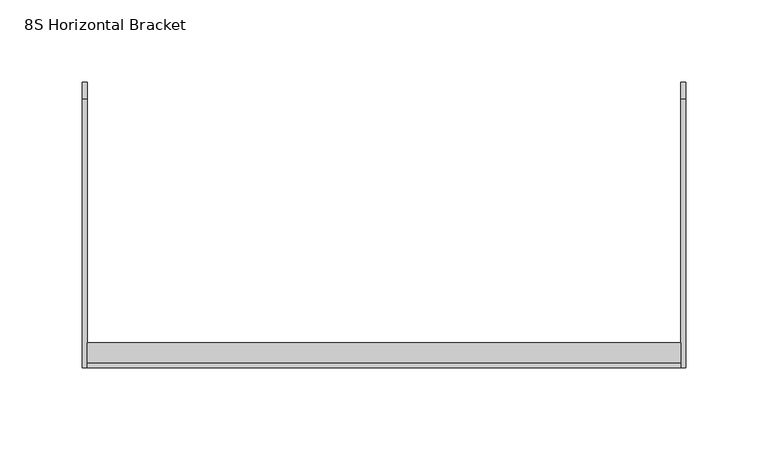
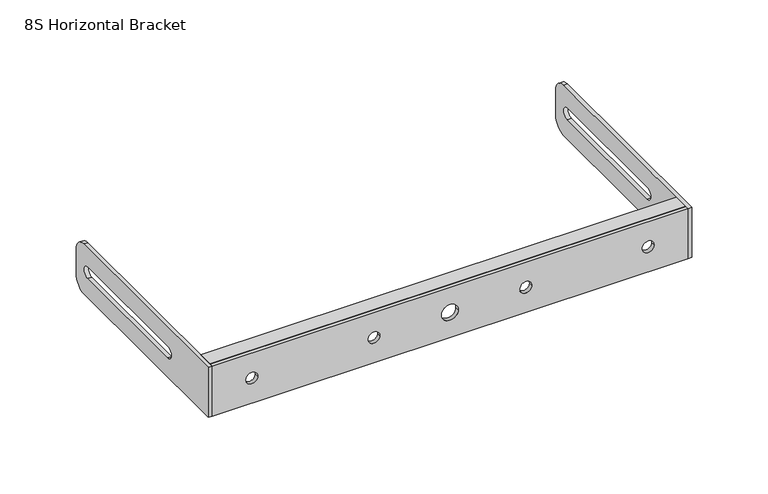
"""IFC4 building model written with IfcOpenShell, lengths in millimetres: proxy geometry, d&b xS-Series 8S Horizontal Bracket : 8S Horizontal Bracket."""

from ifc_helpers import new_model, si_unit, point, frame, frame_2d, origin, origin_2d, place, context, project, spatial, polyline, circle_curve, trimmed, segment, composite_curve, outline, extrude, source, transform, mapped, element, save


def proxy_8s_horizontal_bracket_b8a0a3da(model_context):
    return source(origin(), model_context, "Body", "SweptSolid", [
        extrude(outline(polyline([(-179.99, -143.0), (180.0, -143.0), (180.0, -155.0), (-179.99, -155.0), (-179.99, -143.0)])), frame((0.0, 0.0, -20.0), z_axis=(0.0, 0.0, 1.0), x_axis=(1.0, 0.0, 0.0)), (0.0, 0.0, 1.0), 3.0),
        extrude(outline(polyline([(-179.99, -143.0), (180.0, -143.0), (180.0, -155.0), (-179.99, -155.0), (-179.99, -143.0)])), frame((0.0, 0.0, 17.0), z_axis=(0.0, 0.0, 1.0), x_axis=(1.0, 0.0, 0.0)), (0.0, 0.0, 1.0), 3.0),
        extrude(outline(polyline([(20.0, 180.0), (20.0, -179.99), (-20.0, -179.99), (-20.0, 180.0), (20.0, 180.0)]), holes=[composite_curve([segment(trimmed(circle_curve(origin_2d(), 6.25), [point((0.0, 6.25))], [point((0.0, -6.25))], True, "CARTESIAN"), True, "CONTINUOUS"), segment(trimmed(circle_curve(origin_2d(), 6.25), [point((0.0, -6.25))], [point((0.0, 6.25))], True, "CARTESIAN"), True, "CONTINUOUS")], self_intersect=False), composite_curve([segment(trimmed(circle_curve(frame_2d((0.0, -57.5)), 4.5), [point((0.0, -53.0))], [point((0.0, -62.0))], True, "CARTESIAN"), True, "CONTINUOUS"), segment(trimmed(circle_curve(frame_2d((0.0, -57.5)), 4.5), [point((0.0, -62.0))], [point((0.0, -53.0))], True, "CARTESIAN"), True, "CONTINUOUS")], self_intersect=False), composite_curve([segment(trimmed(circle_curve(frame_2d((0.0, 57.5)), 4.5), [point((0.0, 62.0))], [point((0.0, 53.0))], True, "CARTESIAN"), True, "CONTINUOUS"), segment(trimmed(circle_curve(frame_2d((0.0, 57.5)), 4.5), [point((0.0, 53.0))], [point((0.0, 62.0))], True, "CARTESIAN"), True, "CONTINUOUS")], self_intersect=False), composite_curve([segment(trimmed(circle_curve(frame_2d((0.0, -150.0)), 4.5), [point((0.0, -145.5))], [point((0.0, -154.5))], True, "CARTESIAN"), True, "CONTINUOUS"), segment(trimmed(circle_curve(frame_2d((0.0, -150.0)), 4.5), [point((0.0, -154.5))], [point((0.0, -145.5))], True, "CARTESIAN"), True, "CONTINUOUS")], self_intersect=False), composite_curve([segment(trimmed(circle_curve(frame_2d((0.0, 150.0)), 4.5), [point((0.0, 154.5))], [point((0.0, 145.5))], True, "CARTESIAN"), True, "CONTINUOUS"), segment(trimmed(circle_curve(frame_2d((0.0, 150.0)), 4.5), [point((0.0, 145.5))], [point((0.0, 154.5))], True, "CARTESIAN"), True, "CONTINUOUS")], self_intersect=False)]), frame((0.0, -158.0, 0.0), z_axis=(0.0, 1.0, 0.0), x_axis=(0.0, 0.0, 1.0)), (0.0, 0.0, 1.0), 3.0),
        extrude(outline(composite_curve([segment(polyline([(5.0, -20.0), (-158.0, -20.0), (-158.0, 20.0), (5.0148842, 20.0)]), True, "CONTINUOUS"), segment(trimmed(circle_curve(frame_2d((5.0148842, 10.0148842)), 9.9851158), [point((5.0148842, 20.0))], [point((15.0, 10.0148842))], False, "CARTESIAN"), True, "CONTINUOUS"), segment(polyline([(15.0, 10.0148842), (15.0, -10.0)]), True, "CONTINUOUS"), segment(trimmed(circle_curve(frame_2d((5.0, -10.0)), 10.0), [point((15.0, -10.0))], [point((5.0, -20.0))], False, "CARTESIAN"), True, "CONTINUOUS")], self_intersect=False), holes=[composite_curve([segment(polyline([(-105.0, -4.5), (0.0, -4.5)]), True, "CONTINUOUS"), segment(trimmed(circle_curve(origin_2d(), 4.5), [point((0.0, -4.5))], [point((0.0, 4.5))], True, "CARTESIAN"), True, "CONTINUOUS"), segment(polyline([(0.0, 4.5), (-105.0, 4.5)]), True, "CONTINUOUS"), segment(trimmed(circle_curve(frame_2d((-105.0, 0.0)), 4.5), [point((-105.0, 4.5))], [point((-105.0, -4.5))], True, "CARTESIAN"), True, "CONTINUOUS")], self_intersect=False)]), frame((180.0, 0.0, 0.0), z_axis=(1.0, 0.0, 0.0), x_axis=(0.0, 1.0, 0.0)), (0.0, 0.0, 1.0), 3.0),
        extrude(outline(composite_curve([segment(polyline([(5.0, -20.0), (-158.0, -20.0), (-158.0, 20.0), (5.0148842, 20.0)]), True, "CONTINUOUS"), segment(trimmed(circle_curve(frame_2d((5.0148842, 10.0148842)), 9.9851158), [point((5.0148842, 20.0))], [point((15.0, 10.0148842))], False, "CARTESIAN"), True, "CONTINUOUS"), segment(polyline([(15.0, 10.0148842), (15.0, -10.0)]), True, "CONTINUOUS"), segment(trimmed(circle_curve(frame_2d((5.0, -10.0)), 10.0), [point((15.0, -10.0))], [point((5.0, -20.0))], False, "CARTESIAN"), True, "CONTINUOUS")], self_intersect=False), holes=[composite_curve([segment(polyline([(-105.0, -4.5), (0.0, -4.5)]), True, "CONTINUOUS"), segment(trimmed(circle_curve(origin_2d(), 4.5), [point((0.0, -4.5))], [point((0.0, 4.5))], True, "CARTESIAN"), True, "CONTINUOUS"), segment(polyline([(0.0, 4.5), (-105.0, 4.5)]), True, "CONTINUOUS"), segment(trimmed(circle_curve(frame_2d((-105.0, 0.0)), 4.5), [point((-105.0, 4.5))], [point((-105.0, -4.5))], True, "CARTESIAN"), True, "CONTINUOUS")], self_intersect=False)]), frame((-183.0, 0.0, 0.0), z_axis=(1.0, 0.0, 0.0), x_axis=(0.0, 1.0, 0.0)), (0.0, 0.0, 1.0), 3.01),
    ])


if __name__ == "__main__":
    model = new_model("IFC4")
    model_context = context("Model", 3, world=origin())
    ifc_project = project(units=[si_unit("LENGTHUNIT", "METRE", prefix="MILLI")], contexts=[model_context])
    site = spatial("IfcSite", under=ifc_project)
    building = spatial("IfcBuilding", under=site)
    placement = place(None, origin())
    proxy_8s_horizontal_bracket_shape = proxy_8s_horizontal_bracket_b8a0a3da(model_context)
    element("IfcBuildingElementProxy", 1, Name="d&b xS-Series 8S Horizontal Bracket : 8S Horizontal Bracket", ObjectType="d&b xS-Series 8S Horizontal Bracket : 8S Horizontal Bracket", at=placement, inside=building, context=model_context, shape_type="MappedRepresentation", body=[
        mapped(proxy_8s_horizontal_bracket_shape, transform((0.0, 0.0, 0.0), x_axis=(1.0, 0.0, 0.0), y_axis=(0.0, 1.0, 0.0), z_axis=(0.0, 0.0, 1.0))),
    ])
    save(model, "model.ifc")
